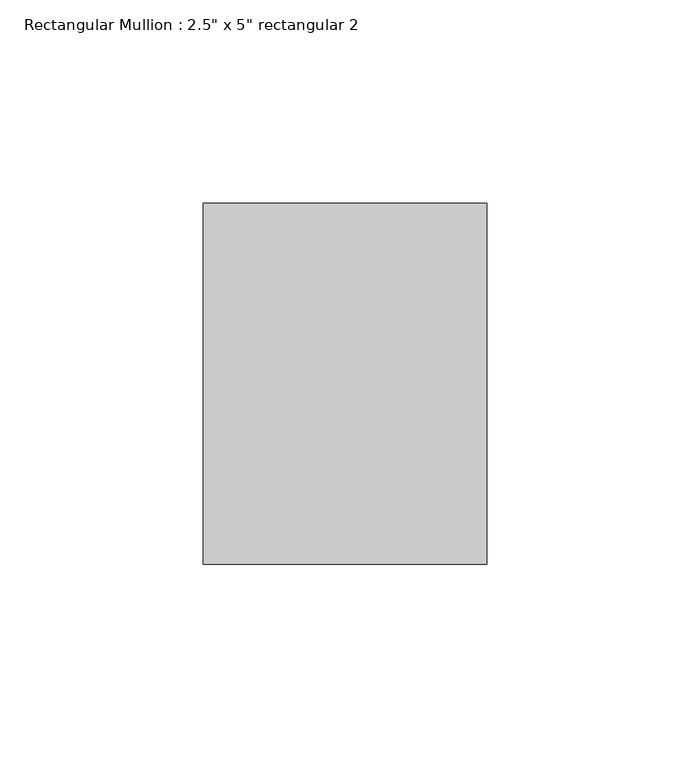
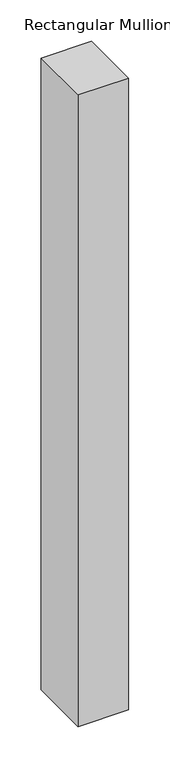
"""IFC4 building model written with IfcOpenShell, lengths in millimetres: member geometry."""

from ifc_helpers import new_model, si_unit, frame, origin, place, context, project, spatial, polyline, outline, extrude, source, transform, mapped, element, save


def member_449b8b0a(model_context):
    return source(origin(), model_context, "Body", "SweptSolid", [
        extrude(outline(polyline([(0.0, 44.45), (0.0, -44.45), (-69.85, -44.45), (-69.85, 44.45), (0.0, 44.45)])), frame((0.0, 0.0, -929.2166667), z_axis=(0.0, 0.0, 1.0), x_axis=(1.0, 0.0, 0.0)), (0.0, 0.0, 1.0), 929.2166667),
    ])


if __name__ == "__main__":
    model = new_model("IFC4")
    model_context = context("Model", 3, world=origin())
    ifc_project = project(units=[si_unit("LENGTHUNIT", "METRE", prefix="MILLI")], contexts=[model_context])
    site = spatial("IfcSite", under=ifc_project)
    building = spatial("IfcBuilding", under=site)
    placement = place(None, origin())
    member_shape = member_449b8b0a(model_context)
    element("IfcMember", 1, ObjectType="Rectangular Mullion : 2.5\" x 5\" rectangular 2", at=placement, inside=building, context=model_context, shape_type="MappedRepresentation", body=[
        mapped(member_shape, transform((0.0, 0.0, 0.0), x_axis=(1.0, 0.0, 0.0), y_axis=(0.0, 1.0, 0.0), z_axis=(0.0, 0.0, 1.0))),
    ])
    save(model, "model.ifc")
